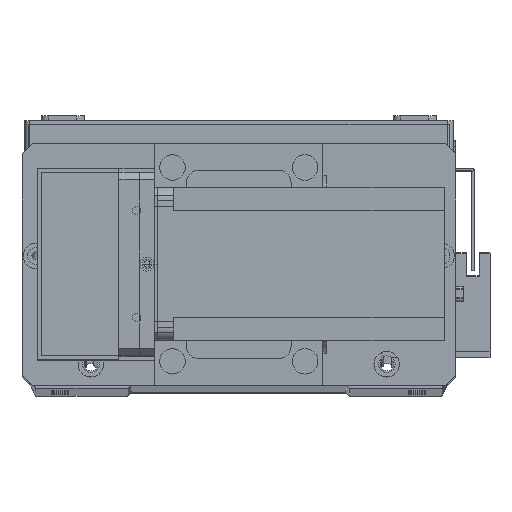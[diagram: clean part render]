
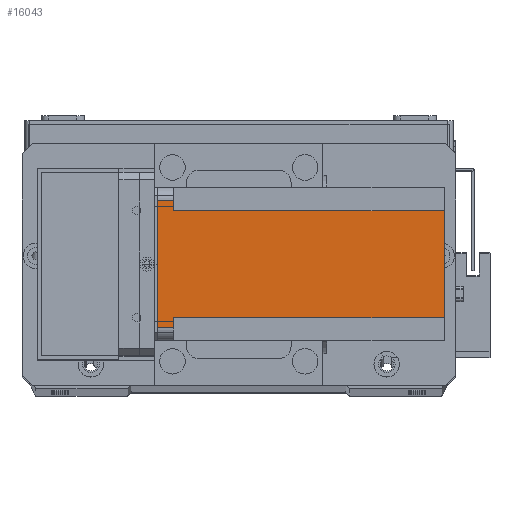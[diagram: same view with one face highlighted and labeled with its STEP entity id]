
A CAD part, top view. The second image highlights one B-rep face of the part: STEP entity #16043.
In plain terms, the highlighted planar face has unit normal (0, 0, 1) as drawn and (-1, 0, 0) by its records, which use the part's own axes.
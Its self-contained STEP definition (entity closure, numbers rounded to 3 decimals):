
#323 = CARTESIAN_POINT ( 'NONE',  ( 0., 5., -112.5 ) ) ;
#1284 = EDGE_CURVE ( 'NONE', #26907, #22632, #20295, .T. ) ;
#3277 = DIRECTION ( 'NONE',  ( 0., 1., 0. ) ) ;
#3911 = CARTESIAN_POINT ( 'NONE',  ( 0., 5., 0. ) ) ;
#4431 = CARTESIAN_POINT ( 'NONE',  ( 0., 51., -112.5 ) ) ;
#4740 = CARTESIAN_POINT ( 'NONE',  ( 0., 0., -112.5 ) ) ;
#6092 = VECTOR ( 'NONE', #29146, 1000. ) ;
#6490 = CARTESIAN_POINT ( 'NONE',  ( 0., 51., -6.5 ) ) ;
#7144 = ORIENTED_EDGE ( 'NONE', *, *, #9290, .F. ) ;
#7205 = VERTEX_POINT ( 'NONE', #3911 ) ;
#9290 = EDGE_CURVE ( 'NONE', #27312, #20561, #10820, .T. ) ;
#9563 = LINE ( 'NONE', #12855, #22962 ) ;
#9664 = CARTESIAN_POINT ( 'NONE',  ( 0., 9., -6.5 ) ) ;
#9782 = DIRECTION ( 'NONE',  ( 0., -1., 0. ) ) ;
#9784 = LINE ( 'NONE', #17116, #16476 ) ;
#10280 = EDGE_CURVE ( 'NONE', #20561, #14582, #22598, .T. ) ;
#10427 = DIRECTION ( 'NONE',  ( 0., 0., -1. ) ) ;
#10820 = LINE ( 'NONE', #4431, #11623 ) ;
#11336 = CARTESIAN_POINT ( 'NONE',  ( 0., 55., 0. ) ) ;
#11620 = ORIENTED_EDGE ( 'NONE', *, *, #1284, .F. ) ;
#11623 = VECTOR ( 'NONE', #22068, 1000. ) ;
#12855 = CARTESIAN_POINT ( 'NONE',  ( 0., 55., -112.5 ) ) ;
#12981 = EDGE_CURVE ( 'NONE', #15795, #14582, #9563, .T. ) ;
#13773 = ORIENTED_EDGE ( 'NONE', *, *, #24160, .T. ) ;
#14582 = VERTEX_POINT ( 'NONE', #31354 ) ;
#15064 = DIRECTION ( 'NONE',  ( 0., 1., 0. ) ) ;
#15707 = CARTESIAN_POINT ( 'NONE',  ( 0., 0., 0. ) ) ;
#15795 = VERTEX_POINT ( 'NONE', #11336 ) ;
#16043 = ADVANCED_FACE ( 'NONE', ( #17690 ), #22354, .T. ) ;
#16256 = EDGE_CURVE ( 'NONE', #15795, #7205, #32281, .T. ) ;
#16443 = CARTESIAN_POINT ( 'NONE',  ( 0., 51., -112.5 ) ) ;
#16476 = VECTOR ( 'NONE', #19551, 1000. ) ;
#16670 = VECTOR ( 'NONE', #3277, 1000. ) ;
#16993 = VECTOR ( 'NONE', #17975, 1000. ) ;
#17116 = CARTESIAN_POINT ( 'NONE',  ( 0., 0., -112.5 ) ) ;
#17690 = FACE_OUTER_BOUND ( 'NONE', #24219, .T. ) ;
#17975 = DIRECTION ( 'NONE',  ( 0., 0., 1. ) ) ;
#18391 = CARTESIAN_POINT ( 'NONE',  ( 0., 60., -6.5 ) ) ;
#18867 = VECTOR ( 'NONE', #28255, 1000. ) ;
#19551 = DIRECTION ( 'NONE',  ( 0., -1., 0. ) ) ;
#19787 = LINE ( 'NONE', #30170, #27284 ) ;
#20295 = LINE ( 'NONE', #28362, #6092 ) ;
#20561 = VERTEX_POINT ( 'NONE', #6490 ) ;
#20912 = CARTESIAN_POINT ( 'NONE',  ( 0., 5., -6.5 ) ) ;
#22068 = DIRECTION ( 'NONE',  ( 0., 0., 1. ) ) ;
#22354 = PLANE ( 'NONE',  #31883 ) ;
#22598 = LINE ( 'NONE', #18391, #16670 ) ;
#22632 = VERTEX_POINT ( 'NONE', #31754 ) ;
#22962 = VECTOR ( 'NONE', #10427, 1000. ) ;
#24160 = EDGE_CURVE ( 'NONE', #31925, #7205, #28804, .T. ) ;
#24219 = EDGE_LOOP ( 'NONE', ( #27126, #13773, #26290, #30397, #24347, #7144, #32361, #11620 ) ) ;
#24347 = ORIENTED_EDGE ( 'NONE', *, *, #10280, .F. ) ;
#24895 = DIRECTION ( 'NONE',  ( -1., 0., 0. ) ) ;
#25786 = EDGE_CURVE ( 'NONE', #27312, #22632, #9784, .T. ) ;
#26290 = ORIENTED_EDGE ( 'NONE', *, *, #16256, .F. ) ;
#26907 = VERTEX_POINT ( 'NONE', #9664 ) ;
#27126 = ORIENTED_EDGE ( 'NONE', *, *, #28531, .F. ) ;
#27284 = VECTOR ( 'NONE', #15064, 1000. ) ;
#27312 = VERTEX_POINT ( 'NONE', #16443 ) ;
#28255 = DIRECTION ( 'NONE',  ( 0., -1., 0. ) ) ;
#28362 = CARTESIAN_POINT ( 'NONE',  ( 0., 9., -112.5 ) ) ;
#28531 = EDGE_CURVE ( 'NONE', #31925, #26907, #19787, .T. ) ;
#28804 = LINE ( 'NONE', #323, #16993 ) ;
#29146 = DIRECTION ( 'NONE',  ( 0., 0., -1. ) ) ;
#30170 = CARTESIAN_POINT ( 'NONE',  ( 0., 0., -6.5 ) ) ;
#30397 = ORIENTED_EDGE ( 'NONE', *, *, #12981, .T. ) ;
#31354 = CARTESIAN_POINT ( 'NONE',  ( 0., 55., -6.5 ) ) ;
#31754 = CARTESIAN_POINT ( 'NONE',  ( 0., 9., -112.5 ) ) ;
#31883 = AXIS2_PLACEMENT_3D ( 'NONE', #4740, #24895, #9782 ) ;
#31925 = VERTEX_POINT ( 'NONE', #20912 ) ;
#32281 = LINE ( 'NONE', #15707, #18867 ) ;
#32361 = ORIENTED_EDGE ( 'NONE', *, *, #25786, .T. ) ;
